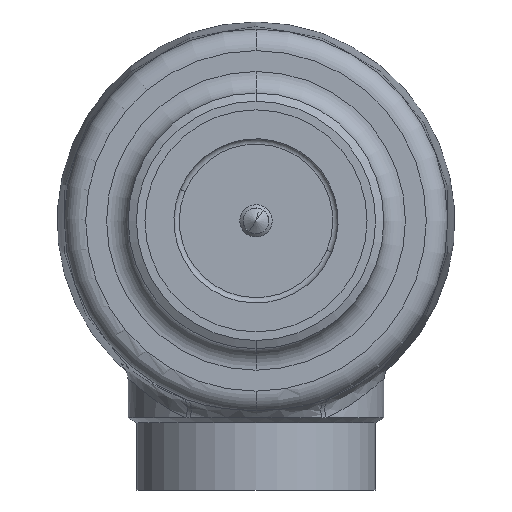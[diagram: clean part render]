
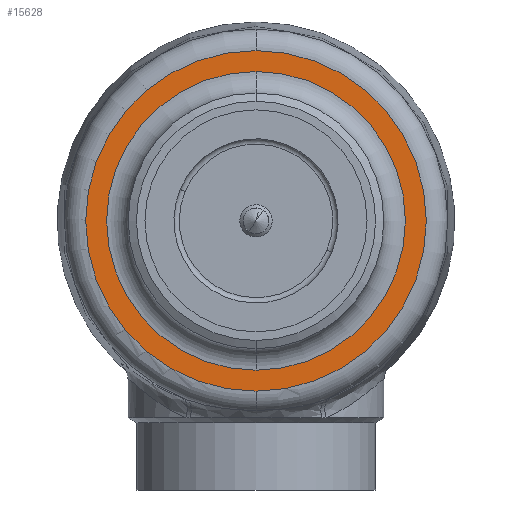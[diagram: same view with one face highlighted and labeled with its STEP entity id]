
A CAD part, front view. The second image highlights one B-rep face of the part: STEP entity #15628.
In plain terms, the highlighted planar face has unit normal (0, -1, 0).
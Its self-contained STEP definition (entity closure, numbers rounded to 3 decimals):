
#16433 = EDGE_CURVE ( 'NONE', #796, #16290, #3940, .T. ) ;
#16508 = EDGE_CURVE ( 'NONE', #16290, #796, #3992, .T. ) ;
#16544 = EDGE_LOOP ( 'NONE', ( #6170, #13807 ) ) ;
#413 = FACE_BOUND ( 'NONE', #14907, .T. ) ;
#414 = FACE_OUTER_BOUND ( 'NONE', #16544, .T. ) ;
#415 = PLANE ( 'NONE',  #416 ) ;
#416 = AXIS2_PLACEMENT_3D ( 'NONE', #420, #421, #422 ) ;
#420 = CARTESIAN_POINT ( 'NONE',  ( 0., -129., 0. ) ) ;
#421 = DIRECTION ( 'NONE',  ( 0., -1., 0. ) ) ;
#422 = DIRECTION ( 'NONE',  ( 0., 0., -1. ) ) ;
#741 = CIRCLE ( 'NONE', #743, 63.274 ) ;
#743 = AXIS2_PLACEMENT_3D ( 'NONE', #744, #745, #746 ) ;
#744 = CARTESIAN_POINT ( 'NONE',  ( 0., -129., 0. ) ) ;
#745 = DIRECTION ( 'NONE',  ( 0., -1., 0. ) ) ;
#746 = DIRECTION ( 'NONE',  ( 0., 0., -1. ) ) ;
#796 = VERTEX_POINT ( 'NONE', #9298 ) ;
#3574 = CARTESIAN_POINT ( 'NONE',  ( 0., -129., -55.5 ) ) ;
#3940 = CIRCLE ( 'NONE', #3941, 55.5 ) ;
#3941 = AXIS2_PLACEMENT_3D ( 'NONE', #3942, #3943, #3944 ) ;
#3942 = CARTESIAN_POINT ( 'NONE',  ( 0., -129., 0. ) ) ;
#3943 = DIRECTION ( 'NONE',  ( 0., 1., 0. ) ) ;
#3944 = DIRECTION ( 'NONE',  ( 0., 0., -1. ) ) ;
#3992 = CIRCLE ( 'NONE', #3993, 55.5 ) ;
#3993 = AXIS2_PLACEMENT_3D ( 'NONE', #3994, #3995, #3996 ) ;
#3994 = CARTESIAN_POINT ( 'NONE',  ( 0., -129., 0. ) ) ;
#3995 = DIRECTION ( 'NONE',  ( 0., 1., 0. ) ) ;
#3996 = DIRECTION ( 'NONE',  ( 0., 0., -1. ) ) ;
#4241 = ORIENTED_EDGE ( 'NONE', *, *, #16433, .T. ) ;
#6170 = ORIENTED_EDGE ( 'NONE', *, *, #14092, .T. ) ;
#9298 = CARTESIAN_POINT ( 'NONE',  ( 0., -129., 55.5 ) ) ;
#13256 = CARTESIAN_POINT ( 'NONE',  ( 0., -129., -63.274 ) ) ;
#13807 = ORIENTED_EDGE ( 'NONE', *, *, #15995, .T. ) ;
#13878 = VERTEX_POINT ( 'NONE', #13256 ) ;
#14092 = EDGE_CURVE ( 'NONE', #13878, #14946, #15481, .T. ) ;
#14408 = ORIENTED_EDGE ( 'NONE', *, *, #16508, .T. ) ;
#14907 = EDGE_LOOP ( 'NONE', ( #14408, #4241 ) ) ;
#14946 = VERTEX_POINT ( 'NONE', #16340 ) ;
#15481 = CIRCLE ( 'NONE', #15482, 63.274 ) ;
#15482 = AXIS2_PLACEMENT_3D ( 'NONE', #15483, #15484, #15485 ) ;
#15483 = CARTESIAN_POINT ( 'NONE',  ( 0., -129., 0. ) ) ;
#15484 = DIRECTION ( 'NONE',  ( 0., -1., 0. ) ) ;
#15485 = DIRECTION ( 'NONE',  ( 0., 0., -1. ) ) ;
#15628 = ADVANCED_FACE ( 'NONE', ( #413, #414 ), #415, .T. ) ;
#15995 = EDGE_CURVE ( 'NONE', #14946, #13878, #741, .T. ) ;
#16290 = VERTEX_POINT ( 'NONE', #3574 ) ;
#16340 = CARTESIAN_POINT ( 'NONE',  ( 0., -129., 63.274 ) ) ;
